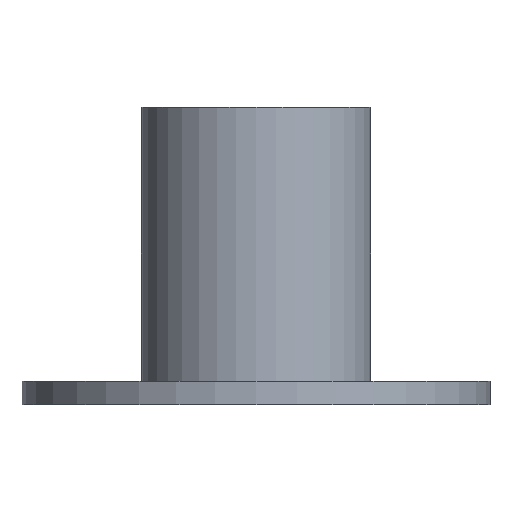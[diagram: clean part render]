
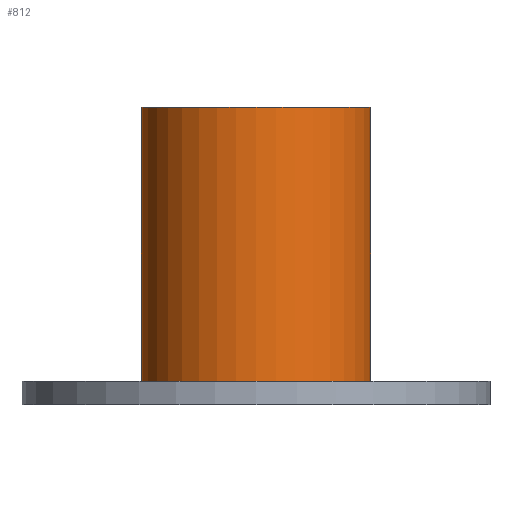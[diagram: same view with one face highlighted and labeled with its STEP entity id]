
A CAD part, front view. The second image highlights one B-rep face of the part: STEP entity #812.
In plain terms, the highlighted cylindrical face has radius 20.37 mm (diameter 40.74 mm), a full revolution.
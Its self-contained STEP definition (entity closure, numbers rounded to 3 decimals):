
#338 = PLANE('',#339);
#339 = AXIS2_PLACEMENT_3D('',#340,#341,#342);
#340 = CARTESIAN_POINT('',(0.,0.,4.1));
#341 = DIRECTION('',(0.,0.,1.));
#342 = DIRECTION('',(1.,0.,-0.));
#533 = PLANE('',#534);
#534 = AXIS2_PLACEMENT_3D('',#535,#536,#537);
#535 = CARTESIAN_POINT('',(0.,0.,52.8));
#536 = DIRECTION('',(0.,0.,1.));
#537 = DIRECTION('',(1.,0.,-0.));
#742 = EDGE_CURVE('',#743,#743,#745,.T.);
#743 = VERTEX_POINT('',#744);
#744 = CARTESIAN_POINT('',(20.37,0.,4.1));
#745 = SURFACE_CURVE('',#746,(#751,#758),.PCURVE_S1.);
#746 = CIRCLE('',#747,20.37);
#747 = AXIS2_PLACEMENT_3D('',#748,#749,#750);
#748 = CARTESIAN_POINT('',(0.,0.,4.1));
#749 = DIRECTION('',(0.,0.,1.));
#750 = DIRECTION('',(1.,0.,-0.));
#751 = PCURVE('',#338,#752);
#752 = DEFINITIONAL_REPRESENTATION('',(#753),#757);
#753 = CIRCLE('',#754,20.37);
#754 = AXIS2_PLACEMENT_2D('',#755,#756);
#755 = CARTESIAN_POINT('',(0.,0.));
#756 = DIRECTION('',(1.,0.));
#757 = ( GEOMETRIC_REPRESENTATION_CONTEXT(2) 
PARAMETRIC_REPRESENTATION_CONTEXT() REPRESENTATION_CONTEXT('2D SPACE',''
  ) );
#758 = PCURVE('',#759,#764);
#759 = CYLINDRICAL_SURFACE('',#760,20.37);
#760 = AXIS2_PLACEMENT_3D('',#761,#762,#763);
#761 = CARTESIAN_POINT('',(0.,0.,4.1));
#762 = DIRECTION('',(0.,0.,1.));
#763 = DIRECTION('',(1.,0.,-0.));
#764 = DEFINITIONAL_REPRESENTATION('',(#765),#769);
#765 = LINE('',#766,#767);
#766 = CARTESIAN_POINT('',(0.,0.));
#767 = VECTOR('',#768,1.);
#768 = DIRECTION('',(1.,0.));
#769 = ( GEOMETRIC_REPRESENTATION_CONTEXT(2) 
PARAMETRIC_REPRESENTATION_CONTEXT() REPRESENTATION_CONTEXT('2D SPACE',''
  ) );
#786 = EDGE_CURVE('',#787,#787,#789,.T.);
#787 = VERTEX_POINT('',#788);
#788 = CARTESIAN_POINT('',(20.37,0.,52.8));
#789 = SURFACE_CURVE('',#790,(#795,#802),.PCURVE_S1.);
#790 = CIRCLE('',#791,20.37);
#791 = AXIS2_PLACEMENT_3D('',#792,#793,#794);
#792 = CARTESIAN_POINT('',(0.,0.,52.8));
#793 = DIRECTION('',(0.,0.,1.));
#794 = DIRECTION('',(1.,0.,-0.));
#795 = PCURVE('',#533,#796);
#796 = DEFINITIONAL_REPRESENTATION('',(#797),#801);
#797 = CIRCLE('',#798,20.37);
#798 = AXIS2_PLACEMENT_2D('',#799,#800);
#799 = CARTESIAN_POINT('',(0.,0.));
#800 = DIRECTION('',(1.,0.));
#801 = ( GEOMETRIC_REPRESENTATION_CONTEXT(2) 
PARAMETRIC_REPRESENTATION_CONTEXT() REPRESENTATION_CONTEXT('2D SPACE',''
  ) );
#802 = PCURVE('',#759,#803);
#803 = DEFINITIONAL_REPRESENTATION('',(#804),#808);
#804 = LINE('',#805,#806);
#805 = CARTESIAN_POINT('',(0.,48.7));
#806 = VECTOR('',#807,1.);
#807 = DIRECTION('',(1.,0.));
#808 = ( GEOMETRIC_REPRESENTATION_CONTEXT(2) 
PARAMETRIC_REPRESENTATION_CONTEXT() REPRESENTATION_CONTEXT('2D SPACE',''
  ) );
#812 = ADVANCED_FACE('',(#813),#759,.T.);
#813 = FACE_BOUND('',#814,.T.);
#814 = EDGE_LOOP('',(#815,#816,#837,#838));
#815 = ORIENTED_EDGE('',*,*,#742,.T.);
#816 = ORIENTED_EDGE('',*,*,#817,.T.);
#817 = EDGE_CURVE('',#743,#787,#818,.T.);
#818 = SEAM_CURVE('',#819,(#823,#830),.PCURVE_S1.);
#819 = LINE('',#820,#821);
#820 = CARTESIAN_POINT('',(20.37,0.,4.1));
#821 = VECTOR('',#822,1.);
#822 = DIRECTION('',(0.,0.,1.));
#823 = PCURVE('',#759,#824);
#824 = DEFINITIONAL_REPRESENTATION('',(#825),#829);
#825 = LINE('',#826,#827);
#826 = CARTESIAN_POINT('',(0.,0.));
#827 = VECTOR('',#828,1.);
#828 = DIRECTION('',(0.,1.));
#829 = ( GEOMETRIC_REPRESENTATION_CONTEXT(2) 
PARAMETRIC_REPRESENTATION_CONTEXT() REPRESENTATION_CONTEXT('2D SPACE',''
  ) );
#830 = PCURVE('',#759,#831);
#831 = DEFINITIONAL_REPRESENTATION('',(#832),#836);
#832 = LINE('',#833,#834);
#833 = CARTESIAN_POINT('',(6.283,0.));
#834 = VECTOR('',#835,1.);
#835 = DIRECTION('',(0.,1.));
#836 = ( GEOMETRIC_REPRESENTATION_CONTEXT(2) 
PARAMETRIC_REPRESENTATION_CONTEXT() REPRESENTATION_CONTEXT('2D SPACE',''
  ) );
#837 = ORIENTED_EDGE('',*,*,#786,.F.);
#838 = ORIENTED_EDGE('',*,*,#817,.F.);
